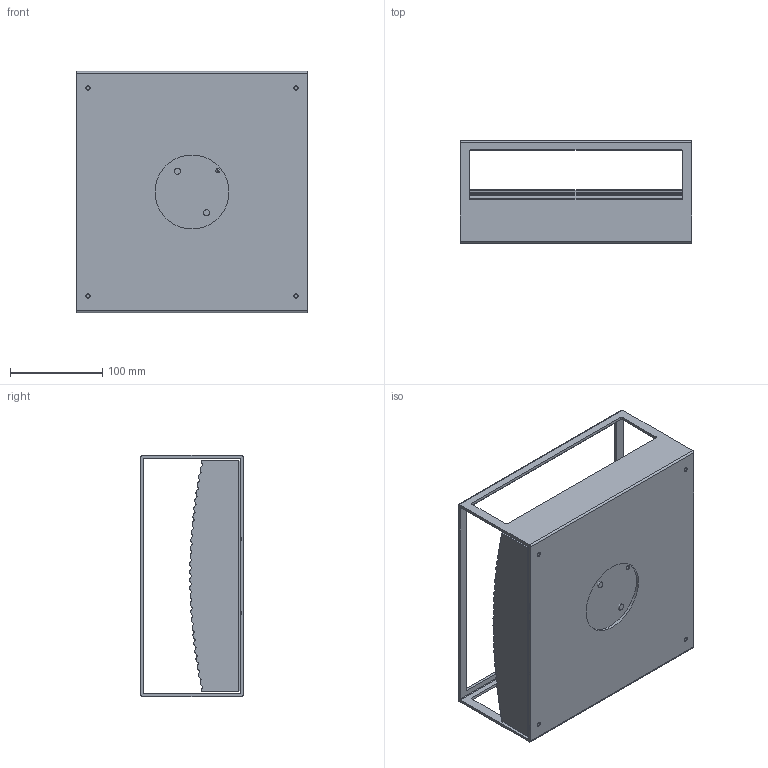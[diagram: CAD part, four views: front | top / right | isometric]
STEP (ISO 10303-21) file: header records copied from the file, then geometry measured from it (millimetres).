
FILE_DESCRIPTION((''),'2;1');
FILE_NAME('ASM0002_ASM','2026-06-03T11:56:25',('Manenti'),(''),'CREO PARAMETRIC BY PTC INC, 2025010','CREO PARAMETRIC BY PTC INC, 2025010','');
FILE_SCHEMA(('CONFIG_CONTROL_DESIGN'));
Length unit declared in the file: millimetre
Products named in the file (2): CMEG901G; ASM0002_ASM
Assembly tree (1 placements, depth 2):
  ASM0002_ASM
    CMEG901G
Bounding box: 250 x 111 x 261 mm (x, y, z)
Volume: 292283.4 mm3; surface area: 449668.2 mm2
Topology: 1 solids, 47 shells, 643 faces, 1696 edges, 1064 vertices
Faces by surface type: cylinder 239, bspline 160, plane 132, sphere 64, cone 26, torus 22
Entity records: 27702 total; most frequent: CARTESIAN_POINT 13212, ORIENTED_EDGE 2984, DIRECTION 2862, EDGE_CURVE 1654, AXIS2_PLACEMENT_3D 1158, VERTEX_POINT 1044, CIRCLE 668, EDGE_LOOP 661
